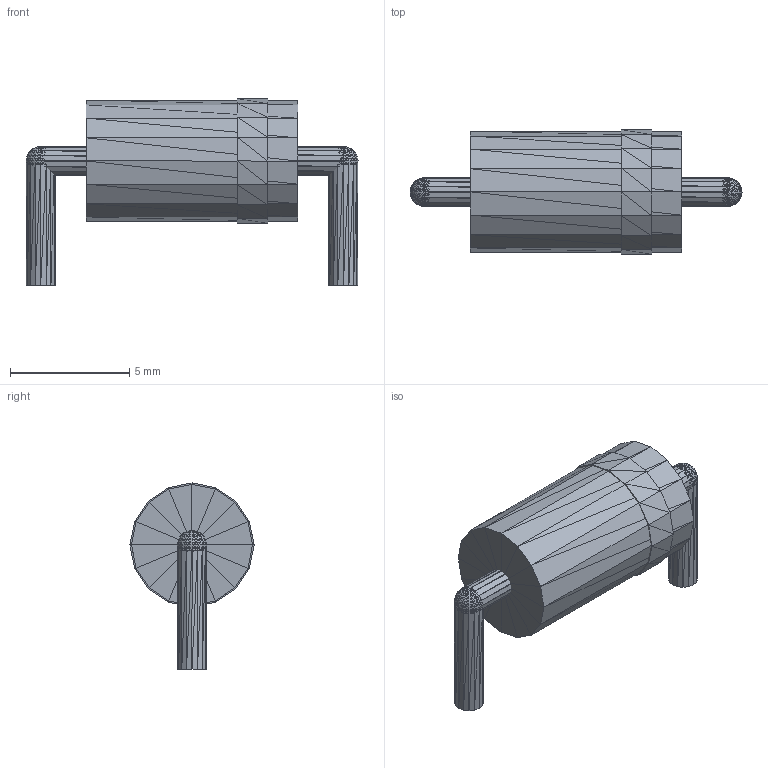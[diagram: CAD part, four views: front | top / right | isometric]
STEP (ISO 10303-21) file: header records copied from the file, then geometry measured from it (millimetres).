
FILE_DESCRIPTION(('HOOPS Exchange Step'),'2;1');
FILE_NAME('C:***.stp');
FILE_SCHEMA( ('AP242_MANAGED_MODEL_BASED_3D_ENGINEERING_MIM_LF {1 0 10303 442 1 1 4 }') );
Length unit declared in the file: inch
Products named in the file (8): DO-27_2; DO-27_3; DO-27_4; DO-27_5; DO-27_6; DO-27_7; DO-27_8; DO-27
Assembly tree (7 placements, depth 2):
  DO-27
    DO-27_2
    DO-27_3
    DO-27_4
    DO-27_5
    DO-27_6
    DO-27_7
    DO-27_8
Bounding box: 13.93 x 5.21 x 7.81 mm (x, y, z)
Volume: 229.8 mm3; surface area: 345.6 mm2
Topology: 7 solids, 7 shells, 1280 faces, 1920 edges, 654 vertices
Faces by surface type: plane 1280
Entity records: 25331 total; most frequent: DIRECTION 4512, CARTESIAN_POINT 3870, ORIENTED_EDGE 3840, VECTOR 1920, LINE 1920, EDGE_CURVE 1920, AXIS2_PLACEMENT_3D 1296, PLANE 1280
